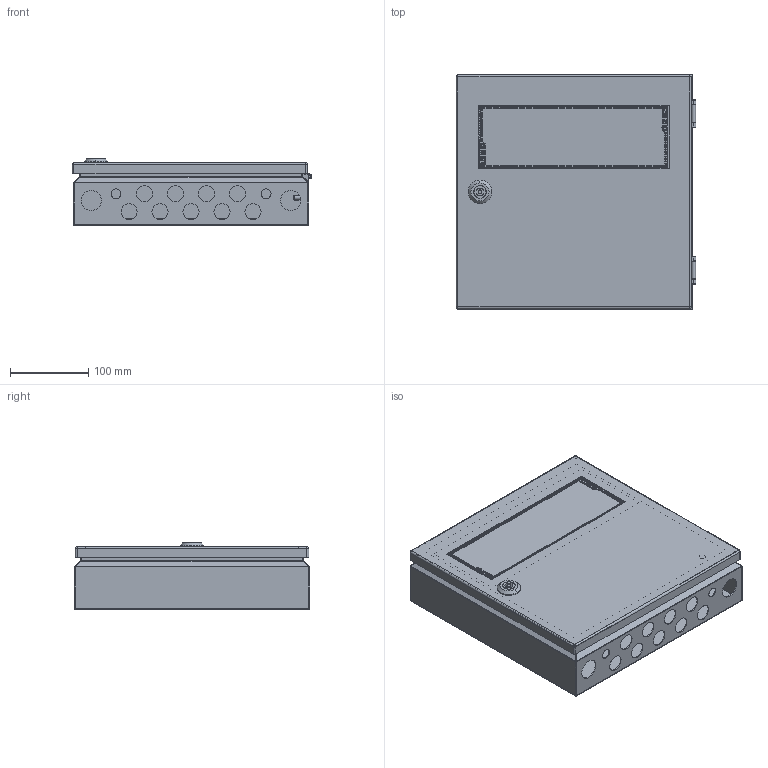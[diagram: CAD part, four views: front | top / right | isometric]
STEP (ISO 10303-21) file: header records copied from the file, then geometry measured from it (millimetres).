
FILE_DESCRIPTION (( 'STEP AP203' ), '1' );
FILE_NAME ('MEV 30.30.08 M Øêàô êîìïàêòíûé ðàñïðåäåëèòåëüíûé ñ îáçîðíîé äâåðüþ.STEP', '2015-02-12T07:41:14', ( 'System' ), ( '' ), 'SwSTEP 2.0', 'SolidWorks 2012', '' );
FILE_SCHEMA (( 'CONFIG_CONTROL_DESIGN' ));
Length unit declared in the file: millimetre
Products named in the file (8): MEV 30.30.08 M Øêàô êîìïàêòíûé ðàñïðåäåëèòåëüíûé ñ îáçîðíîé äâåðüþ; Êîðïóñíàÿ ÷àñòü ÑÁ; ãàéêà Ì4 ñ ôëàíöåì îö. ; 216-0140 frame part; Ãàéêà Ì5 ñ ôëàíöåì DIN 6923; MES 20.20 03.000ﾑﾁ ﾄ粢_MEV 30.30 03.000早 ┐･瑟; DR 07.90 Ex DIN-ðåéêà_DR 07.285 Ex DIN-à¥©ª ; MES 20.20.08 01.000蚜 暑痫篑_MEV 30.30.08 M 01.000憗 姰喁汜
Assembly tree (12 placements, depth 3):
  MEV 30.30.08 M Øêàô êîìïàêòíûé ðàñïðåäåëèòåëüíûé ñ îáçîðíîé äâåðüþ
    MES 20.20.08 01.000蚜 暑痫篑_MEV 30.30.08 M 01.000憗 姰喁汜
    DR 07.90 Ex DIN-ðåéêà_DR 07.285 Ex DIN-à¥©ª   x2
    MES 20.20 03.000ﾑﾁ ﾄ粢_MEV 30.30 03.000早 ┐･瑟
    Ãàéêà Ì5 ñ ôëàíöåì DIN 6923  x4
    Êîðïóñíàÿ ÷àñòü ÑÁ  x2
      216-0140 frame part
      ãàéêà Ì4 ñ ôëàíöåì îö. 
Bounding box: 305.8 x 300 x 84.5 mm (x, y, z)
Volume: 535840.4 mm3; surface area: 656216.9 mm2
Topology: 39 solids, 39 shells, 2680 faces, 6838 edges, 4378 vertices
Faces by surface type: plane 1317, cylinder 974, bspline 220, cone 128, torus 25, sphere 16
Entity records: 70772 total; most frequent: CARTESIAN_POINT 16527, ORIENTED_EDGE 11102, DIRECTION 11007, EDGE_CURVE 5551, AXIS2_PLACEMENT_3D 3981, VERTEX_POINT 3599, VECTOR 3045, LINE 3045
